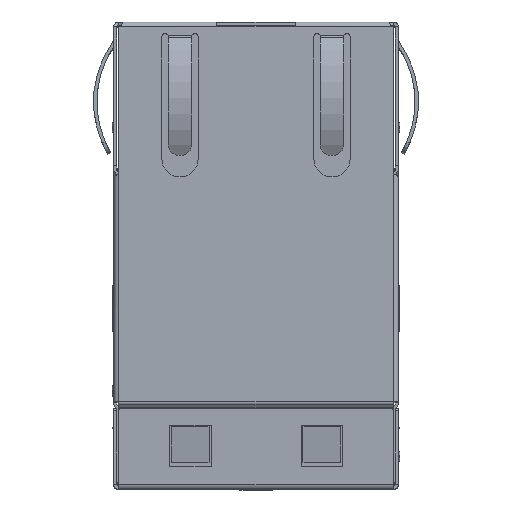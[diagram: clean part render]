
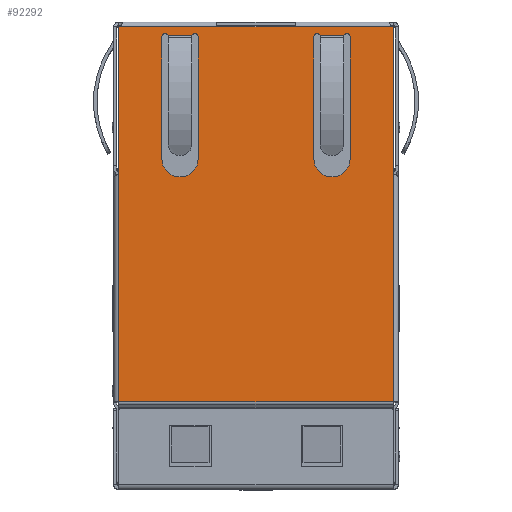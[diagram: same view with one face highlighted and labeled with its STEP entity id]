
A CAD part, top view. The second image highlights one B-rep face of the part: STEP entity #92292.
In plain terms, the highlighted planar face has unit normal (0, 0, 1).
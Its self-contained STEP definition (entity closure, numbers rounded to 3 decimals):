
#3841=DIRECTION('',(-1.,0.,0.));
#3842=VECTOR('',#3841,5.955);
#3843=CARTESIAN_POINT('',(-37.305,27.825,0.25));
#3844=LINE('',#3843,#3842);
#3845=CARTESIAN_POINT('',(-43.26,27.825,0.25));
#32623=DIRECTION('',(0.,-1.,0.));
#32624=VECTOR('',#32623,13.84);
#32625=CARTESIAN_POINT('',(-43.26,18.925,0.25));
#32626=LINE('',#32625,#32624);
#32627=DIRECTION('',(0.,-1.,0.));
#32628=VECTOR('',#32627,8.9);
#32629=CARTESIAN_POINT('',(-26.59,27.825,0.25));
#32630=LINE('',#32629,#32628);
#32631=DIRECTION('',(0.,-1.,0.));
#32632=VECTOR('',#32631,13.84);
#32633=CARTESIAN_POINT('',(-26.59,18.925,
0.25));
#32634=LINE('',#32633,#32632);
#32635=DIRECTION('',(1.,0.,0.));
#32636=VECTOR('',#32635,4.76);
#32637=CARTESIAN_POINT('',(-37.305,27.825,0.25));
#32638=LINE('',#32637,#32636);
#32639=CARTESIAN_POINT('',(-31.215,27.225,0.25));
#32640=DIRECTION('',(0.,0.,1.));
#32641=DIRECTION('',(0.945,0.328,0.));
#32642=AXIS2_PLACEMENT_3D('',#32639,#32640,#32641);
#32644=CARTESIAN_POINT('',(-30.315,19.825,0.25));
#32645=DIRECTION('',(0.,0.,1.));
#32646=DIRECTION('',(-1.,0.001,0.));
#32647=AXIS2_PLACEMENT_3D('',#32644,#32645,#32646);
#32649=CARTESIAN_POINT('',(-29.415,27.225,0.25));
#32650=DIRECTION('',(0.,0.,1.));
#32651=DIRECTION('',(1.,0.,0.));
#32652=AXIS2_PLACEMENT_3D('',#32649,#32650,#32651);
#32654=CARTESIAN_POINT('',(-40.435,27.225,0.25));
#32655=DIRECTION('',(0.,0.,1.));
#32656=DIRECTION('',(0.945,0.328,0.));
#32657=AXIS2_PLACEMENT_3D('',#32654,#32655,#32656);
#32659=CARTESIAN_POINT('',(-39.535,19.825,0.25));
#32660=DIRECTION('',(0.,0.,1.));
#32661=DIRECTION('',(-1.,0.,0.));
#32662=AXIS2_PLACEMENT_3D('',#32659,#32660,#32661);
#32664=CARTESIAN_POINT('',(-38.635,27.225,0.25));
#32665=DIRECTION('',(0.,0.,1.));
#32666=DIRECTION('',(1.,0.,0.));
#32667=AXIS2_PLACEMENT_3D('',#32664,#32665,#32666);
#32673=DIRECTION('',(1.,0.,0.));
#32674=VECTOR('',#32673,16.67);
#32675=CARTESIAN_POINT('',(-43.26,5.085,0.25));
#32676=LINE('',#32675,#32674);
#32677=DIRECTION('',(0.,-1.,0.));
#32678=VECTOR('',#32677,8.9);
#32679=CARTESIAN_POINT('',(-43.26,27.825,0.25));
#32680=LINE('',#32679,#32678);
#33011=DIRECTION('',(-1.,0.,0.));
#33012=VECTOR('',#33011,5.955);
#33013=CARTESIAN_POINT('',(-26.59,27.825,0.25));
#33014=LINE('',#33013,#33012);
#33015=DIRECTION('',(1.,0.,0.));
#33016=VECTOR('',#33015,1.422);
#33017=CARTESIAN_POINT('',(-31.026,27.291,
0.25));
#33018=LINE('',#33017,#33016);
#33128=DIRECTION('',(0.,1.,0.));
#33129=VECTOR('',#33128,7.4);
#33130=CARTESIAN_POINT('',(-31.415,19.825,0.25));
#33131=LINE('',#33130,#33129);
#33144=DIRECTION('',(0.,-1.,0.));
#33145=VECTOR('',#33144,7.4);
#33146=CARTESIAN_POINT('',(-29.215,27.225,0.25));
#33147=LINE('',#33146,#33145);
#33157=DIRECTION('',(1.,0.,0.));
#33158=VECTOR('',#33157,1.422);
#33159=CARTESIAN_POINT('',(-40.246,27.291,
0.25));
#33160=LINE('',#33159,#33158);
#33270=DIRECTION('',(0.,1.,0.));
#33271=VECTOR('',#33270,7.4);
#33272=CARTESIAN_POINT('',(-40.635,19.825,0.25));
#33273=LINE('',#33272,#33271);
#33286=DIRECTION('',(0.,-1.,0.));
#33287=VECTOR('',#33286,7.4);
#33288=CARTESIAN_POINT('',(-38.435,27.225,0.25));
#33289=LINE('',#33288,#33287);
#45894=CARTESIAN_POINT('',(-43.26,5.085,0.25));
#45895=VERTEX_POINT('',#45894);
#45940=CARTESIAN_POINT('',(-26.59,5.085,0.25));
#45941=VERTEX_POINT('',#45940);
#46803=VERTEX_POINT('',#3845);
#46806=CARTESIAN_POINT('',(-37.305,27.825,0.25));
#46807=VERTEX_POINT('',#46806);
#47206=CARTESIAN_POINT('',(-26.59,27.825,0.25));
#47207=VERTEX_POINT('',#47206);
#47208=CARTESIAN_POINT('',(-26.59,18.925,
0.25));
#47209=VERTEX_POINT('',#47208);
#47525=CARTESIAN_POINT('',(-43.26,18.925,0.25));
#47526=VERTEX_POINT('',#47525);
#47545=CARTESIAN_POINT('',(-32.545,27.825,0.25));
#47546=VERTEX_POINT('',#47545);
#47547=CARTESIAN_POINT('',(-31.026,27.291,
0.25));
#47548=CARTESIAN_POINT('',(-29.604,27.291,
0.25));
#47549=VERTEX_POINT('',#47547);
#47550=VERTEX_POINT('',#47548);
#47551=CARTESIAN_POINT('',(-31.415,27.225,0.25));
#47552=VERTEX_POINT('',#47551);
#47553=CARTESIAN_POINT('',(-31.415,19.825,0.25));
#47554=VERTEX_POINT('',#47553);
#47555=CARTESIAN_POINT('',(-29.215,19.825,0.25));
#47556=VERTEX_POINT('',#47555);
#47557=CARTESIAN_POINT('',(-29.215,27.225,0.25));
#47558=VERTEX_POINT('',#47557);
#47559=CARTESIAN_POINT('',(-40.246,27.291,
0.25));
#47560=CARTESIAN_POINT('',(-38.824,27.291,
0.25));
#47561=VERTEX_POINT('',#47559);
#47562=VERTEX_POINT('',#47560);
#47563=CARTESIAN_POINT('',(-40.635,27.225,0.25));
#47564=VERTEX_POINT('',#47563);
#47565=CARTESIAN_POINT('',(-40.635,19.825,0.25));
#47566=VERTEX_POINT('',#47565);
#47567=CARTESIAN_POINT('',(-38.435,19.825,0.25));
#47568=VERTEX_POINT('',#47567);
#47569=CARTESIAN_POINT('',(-38.435,27.225,0.25));
#47570=VERTEX_POINT('',#47569);
#92245=CARTESIAN_POINT('',(-34.925,16.455,0.25));
#92246=DIRECTION('',(0.,0.,1.));
#92247=DIRECTION('',(0.,1.,0.));
#92248=AXIS2_PLACEMENT_3D('',#92245,#92246,#92247);
#92249=PLANE('',#92248);
#92250=ORIENTED_EDGE('',*,*,#54615,.T.);
#92251=ORIENTED_EDGE('',*,*,#55546,.T.);
#92253=ORIENTED_EDGE('',*,*,#92252,.F.);
#92254=ORIENTED_EDGE('',*,*,#92239,.F.);
#92256=ORIENTED_EDGE('',*,*,#92255,.F.);
#92257=ORIENTED_EDGE('',*,*,#53009,.F.);
#92259=ORIENTED_EDGE('',*,*,#92258,.T.);
#92261=ORIENTED_EDGE('',*,*,#92260,.F.);
#92262=EDGE_LOOP('',(#92250,#92251,#92253,#92254,#92256,#92257,#92259,#92261));
#92263=FACE_OUTER_BOUND('',#92262,.F.);
#92265=ORIENTED_EDGE('',*,*,#92264,.F.);
#92267=ORIENTED_EDGE('',*,*,#92266,.T.);
#92269=ORIENTED_EDGE('',*,*,#92268,.F.);
#92271=ORIENTED_EDGE('',*,*,#92270,.T.);
#92273=ORIENTED_EDGE('',*,*,#92272,.F.);
#92275=ORIENTED_EDGE('',*,*,#92274,.T.);
#92276=EDGE_LOOP('',(#92265,#92267,#92269,#92271,#92273,#92275));
#92277=FACE_BOUND('',#92276,.F.);
#92279=ORIENTED_EDGE('',*,*,#92278,.F.);
#92281=ORIENTED_EDGE('',*,*,#92280,.T.);
#92283=ORIENTED_EDGE('',*,*,#92282,.F.);
#92285=ORIENTED_EDGE('',*,*,#92284,.T.);
#92287=ORIENTED_EDGE('',*,*,#92286,.F.);
#92289=ORIENTED_EDGE('',*,*,#92288,.T.);
#92290=EDGE_LOOP('',(#92279,#92281,#92283,#92285,#92287,#92289));
#92291=FACE_BOUND('',#92290,.F.);
#92292=ADVANCED_FACE('',(#92263,#92277,#92291),#92249,.T.);
#32643=CIRCLE('',#32642,0.2);
#32648=CIRCLE('',#32647,1.1);
#32653=CIRCLE('',#32652,0.2);
#32658=CIRCLE('',#32657,0.2);
#32663=CIRCLE('',#32662,1.1);
#32668=CIRCLE('',#32667,0.2);
#53009=EDGE_CURVE('',#46807,#46803,#3844,.T.);
#54615=EDGE_CURVE('',#47207,#47209,#32630,.T.);
#55546=EDGE_CURVE('',#47209,#45941,#32634,.T.);
#92239=EDGE_CURVE('',#47526,#45895,#32626,.T.);
#92252=EDGE_CURVE('',#45895,#45941,#32676,.T.);
#92255=EDGE_CURVE('',#46803,#47526,#32680,.T.);
#92258=EDGE_CURVE('',#46807,#47546,#32638,.T.);
#92260=EDGE_CURVE('',#47207,#47546,#33014,.T.);
#92264=EDGE_CURVE('',#47549,#47550,#33018,.T.);
#92266=EDGE_CURVE('',#47549,#47552,#32643,.T.);
#92268=EDGE_CURVE('',#47554,#47552,#33131,.T.);
#92270=EDGE_CURVE('',#47554,#47556,#32648,.T.);
#92272=EDGE_CURVE('',#47558,#47556,#33147,.T.);
#92274=EDGE_CURVE('',#47558,#47550,#32653,.T.);
#92278=EDGE_CURVE('',#47561,#47562,#33160,.T.);
#92280=EDGE_CURVE('',#47561,#47564,#32658,.T.);
#92282=EDGE_CURVE('',#47566,#47564,#33273,.T.);
#92284=EDGE_CURVE('',#47566,#47568,#32663,.T.);
#92286=EDGE_CURVE('',#47570,#47568,#33289,.T.);
#92288=EDGE_CURVE('',#47570,#47562,#32668,.T.);
